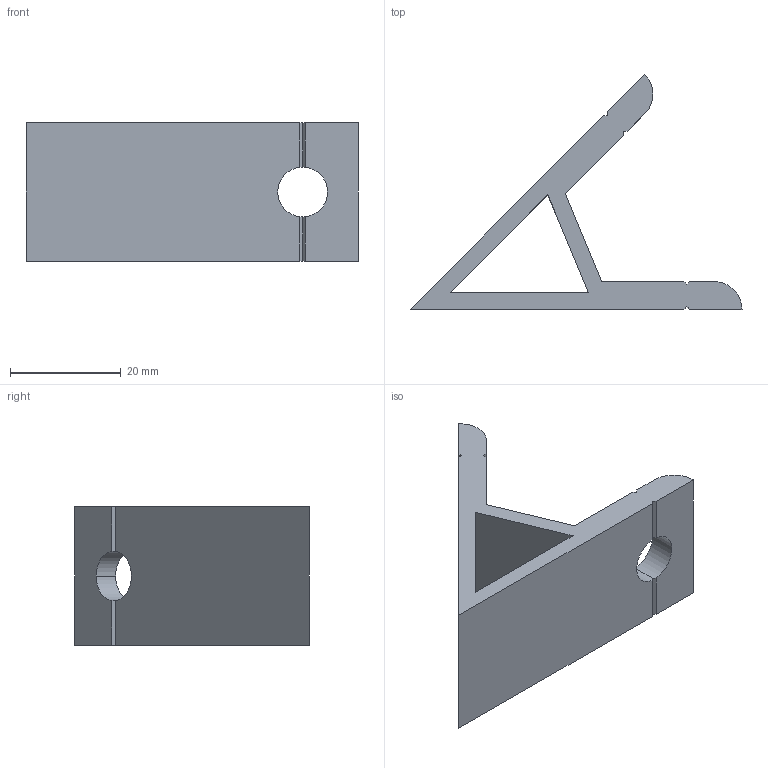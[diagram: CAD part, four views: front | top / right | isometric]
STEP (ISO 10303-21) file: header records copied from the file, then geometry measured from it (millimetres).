
FILE_DESCRIPTION (( 'STEP AP203' ), '1' );
FILE_NAME ('WA2545-6.STEP', '2024-02-17T07:25:18', ( '' ), ( '' ), 'SwSTEP 2.0', 'SolidWorks 2022', '' );
FILE_SCHEMA (( 'CONFIG_CONTROL_DESIGN' ));
Length unit declared in the file: millimetre
Products named in the file (1): WA2545-6
Bounding box: 60 x 42.43 x 25 mm (x, y, z)
Volume: 11557.1 mm3; surface area: 7597.8 mm2
Topology: 1 solids, 1 shells, 37 faces, 113 edges, 74 vertices
Faces by surface type: plane 30, cylinder 7
Entity records: 1342 total; most frequent: CARTESIAN_POINT 273, ORIENTED_EDGE 226, DIRECTION 191, EDGE_CURVE 113, LINE 79, VECTOR 79, VERTEX_POINT 74, AXIS2_PLACEMENT_3D 56
